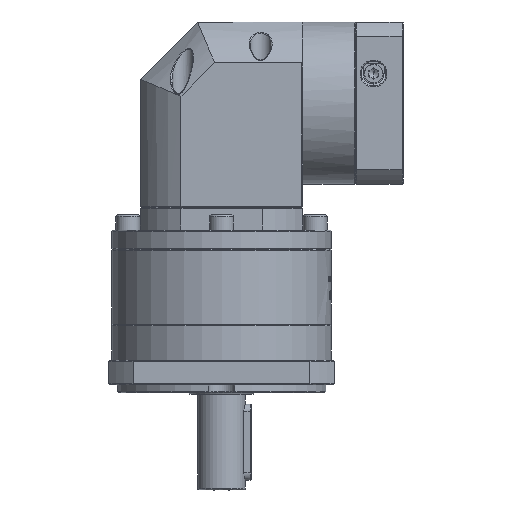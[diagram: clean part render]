
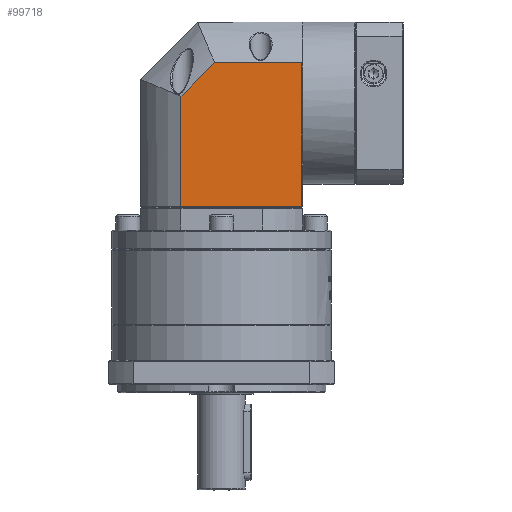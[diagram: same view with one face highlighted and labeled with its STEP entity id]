
A CAD part, front view. The second image highlights one B-rep face of the part: STEP entity #99718.
In plain terms, the highlighted planar face has unit normal (0, -1, 0).
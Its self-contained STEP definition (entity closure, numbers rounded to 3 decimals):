
#266 = EDGE_CURVE ( 'NONE', #68265, #117905, #75926, .T. ) ;
#9837 = ORIENTED_EDGE ( 'NONE', *, *, #45058, .F. ) ;
#10404 = CARTESIAN_POINT ( 'NONE',  ( -36.838, -93.087, 32.894 ) ) ;
#17407 = CARTESIAN_POINT ( 'NONE',  ( -37.338, -93.087, -42.319 ) ) ;
#24117 = DIRECTION ( 'NONE',  ( 0., 0., -1. ) ) ;
#25046 = CARTESIAN_POINT ( 'NONE',  ( -100.552, -93.087, -42.319 ) ) ;
#36467 = VECTOR ( 'NONE', #41516, 1000. ) ;
#37560 = DIRECTION ( 'NONE',  ( 0.707, 0., 0.707 ) ) ;
#41516 = DIRECTION ( 'NONE',  ( 1., 0., 0. ) ) ;
#45058 = EDGE_CURVE ( 'NONE', #108130, #159583, #164287, .T. ) ;
#60398 = EDGE_CURVE ( 'NONE', #68265, #159583, #142917, .T. ) ;
#61532 = AXIS2_PLACEMENT_3D ( 'NONE', #92021, #105777, #119993 ) ;
#62631 = CARTESIAN_POINT ( 'NONE',  ( -83.021, -93.087, 32.894 ) ) ;
#64188 = FACE_OUTER_BOUND ( 'NONE', #78588, .T. ) ;
#68265 = VERTEX_POINT ( 'NONE', #25046 ) ;
#70534 = VECTOR ( 'NONE', #37560, 1000. ) ;
#73981 = ORIENTED_EDGE ( 'NONE', *, *, #166158, .F. ) ;
#75926 = LINE ( 'NONE', #103469, #173968 ) ;
#76378 = CARTESIAN_POINT ( 'NONE',  ( -37.338, -93.087, 54.181 ) ) ;
#77625 = ORIENTED_EDGE ( 'NONE', *, *, #60398, .T. ) ;
#78588 = EDGE_LOOP ( 'NONE', ( #77625, #9837, #136737, #73981, #141284 ) ) ;
#88438 = CARTESIAN_POINT ( 'NONE',  ( -100.552, -93.087, 15.363 ) ) ;
#92021 = CARTESIAN_POINT ( 'NONE',  ( -36.838, -93.087, 54.181 ) ) ;
#92237 = CARTESIAN_POINT ( 'NONE',  ( -100.552, -93.087, 15.363 ) ) ;
#99718 = ADVANCED_FACE ( 'NONE', ( #64188 ), #146740, .F. ) ;
#103469 = CARTESIAN_POINT ( 'NONE',  ( -100.552, -93.087, 54.181 ) ) ;
#105777 = DIRECTION ( 'NONE',  ( 0., 1., 0. ) ) ;
#108130 = VERTEX_POINT ( 'NONE', #131763 ) ;
#111089 = LINE ( 'NONE', #92237, #70534 ) ;
#117905 = VERTEX_POINT ( 'NONE', #88438 ) ;
#119275 = VERTEX_POINT ( 'NONE', #62631 ) ;
#119993 = DIRECTION ( 'NONE',  ( -1., 0., 0. ) ) ;
#123577 = CARTESIAN_POINT ( 'NONE',  ( -36.838, -93.087, -42.319 ) ) ;
#127995 = VECTOR ( 'NONE', #24117, 1000. ) ;
#131763 = CARTESIAN_POINT ( 'NONE',  ( -37.338, -93.087, 32.894 ) ) ;
#133414 = DIRECTION ( 'NONE',  ( 1., 0., 0. ) ) ;
#136425 = LINE ( 'NONE', #10404, #174678 ) ;
#136737 = ORIENTED_EDGE ( 'NONE', *, *, #142103, .F. ) ;
#141284 = ORIENTED_EDGE ( 'NONE', *, *, #266, .F. ) ;
#142103 = EDGE_CURVE ( 'NONE', #119275, #108130, #136425, .T. ) ;
#142129 = DIRECTION ( 'NONE',  ( 0., 0., 1. ) ) ;
#142917 = LINE ( 'NONE', #123577, #36467 ) ;
#146740 = PLANE ( 'NONE',  #61532 ) ;
#159583 = VERTEX_POINT ( 'NONE', #17407 ) ;
#164287 = LINE ( 'NONE', #76378, #127995 ) ;
#166158 = EDGE_CURVE ( 'NONE', #117905, #119275, #111089, .T. ) ;
#173968 = VECTOR ( 'NONE', #142129, 1000. ) ;
#174678 = VECTOR ( 'NONE', #133414, 1000. ) ;
